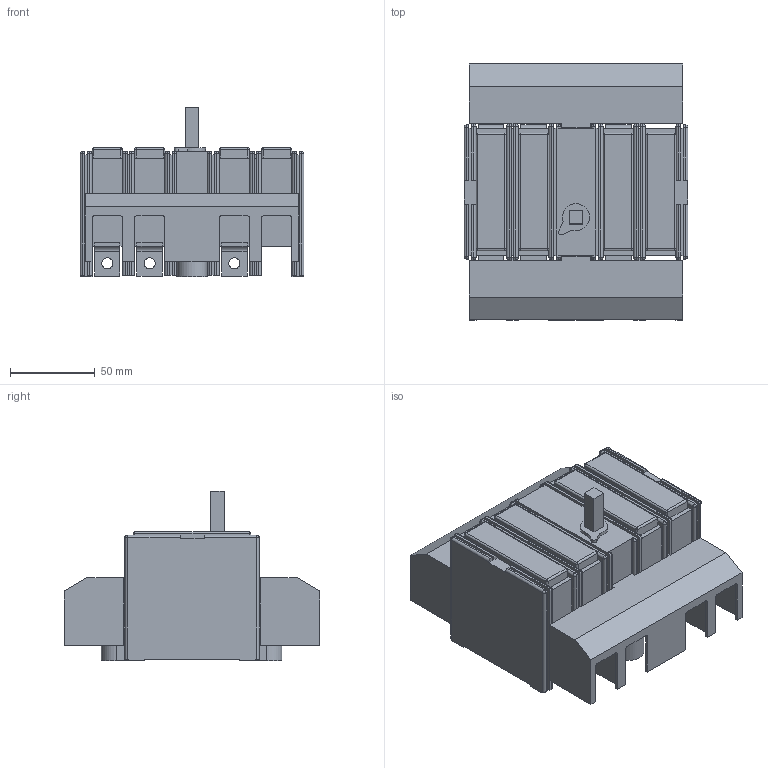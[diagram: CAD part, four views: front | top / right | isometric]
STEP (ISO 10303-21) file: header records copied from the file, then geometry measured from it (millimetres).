
FILE_DESCRIPTION(/* description */ (''),/* implementation_level */ '2;1');
FILE_NAME(/* name */ 'RA100 P3 A z oslona zaciskow.stp',/* time_stamp */ '2021-08-17T12:10:37+02:00',/* author */ (''),/* organization */ (''),/* preprocessor_version */ 'ST-DEVELOPER v18.1',/* originating_system */ 'SIEMENS PLM Software NX 1965',/* authorisation */ '');
FILE_SCHEMA (('AUTOMOTIVE_DESIGN { 1 0 10303 214 3 1 1 1 }'));
Length unit declared in the file: millimetre
Products named in the file (1): RA100 P3 A z oslona zaciskow_stp
Bounding box: 132 x 151.03 x 100 mm (x, y, z)
Volume: 695583.2 mm3; surface area: 127419.8 mm2
Topology: 1 solids, 1 shells, 480 faces, 1309 edges, 801 vertices
Faces by surface type: plane 303, cylinder 137, sphere 39, bspline 1
Full cylindrical faces by diameter (mm): 5.8 x2, 6.5 x6, 10 x2, 11.5 x2
Entity records: 14591 total; most frequent: CARTESIAN_POINT 2569, ORIENTED_EDGE 2502, DIRECTION 2481, EDGE_CURVE 1251, LINE 975, VECTOR 975, VERTEX_POINT 795, AXIS2_PLACEMENT_3D 753
